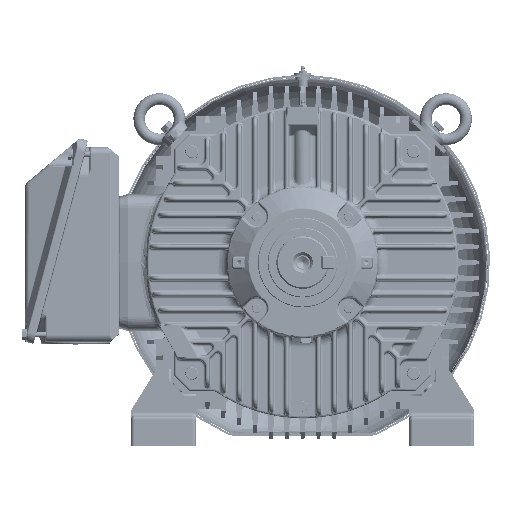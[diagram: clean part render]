
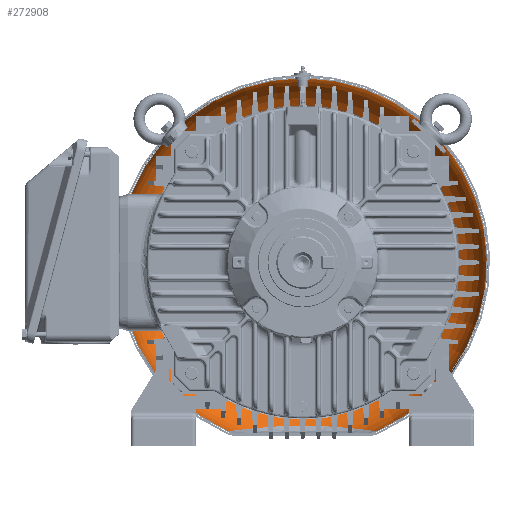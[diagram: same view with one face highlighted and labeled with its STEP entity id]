
A CAD part, front view. The second image highlights one B-rep face of the part: STEP entity #272908.
In plain terms, the highlighted toroidal (fillet/blend) face has major radius 180.5 mm and minor radius 75 mm.
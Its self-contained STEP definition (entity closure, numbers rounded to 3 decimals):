
#5794=B_SPLINE_CURVE_WITH_KNOTS('',3,(#451429,#451430,#451431,#451432,#451433,
#451434,#451435,#451436,#451437,#451438,#451439,#451440,#451441,#451442,
#451443,#451444,#451445,#451446,#451447,#451448,#451449,#451450,#451451,
#451452,#451453,#451454,#451455,#451456,#451457,#451458,#451459,#451460,
#451461,#451462,#451463,#451464,#451465,#451466,#451467,#451468,#451469,
#451470,#451471,#451472,#451473,#451474,#451475,#451476,#451477,#451478,
#451479,#451480,#451481,#451482,#451483,#451484,#451485,#451486,#451487,
#451488,#451489,#451490,#451491,#451492,#451493,#451494,#451495,#451496,
#451497,#451498,#451499,#451500,#451501,#451502,#451503,#451504,#451505,
#451506,#451507,#451508,#451509,#451510,#451511,#451512,#451513),
 .UNSPECIFIED.,.F.,.F.,(4,1,1,1,1,1,1,1,1,1,1,1,1,1,1,1,1,1,1,1,1,1,1,1,
1,1,1,1,1,1,1,1,1,1,1,1,1,1,1,1,1,1,1,1,1,1,1,1,1,1,1,1,1,1,1,1,1,1,1,1,
1,1,1,1,1,1,1,1,1,1,1,1,1,1,1,1,1,1,1,1,1,1,4),(0.,0.031,0.063,0.078,
0.094,0.102,0.109,0.117,0.121,0.123,0.125,0.127,
0.129,0.133,0.141,0.148,0.156,0.172,0.188,0.203,
0.219,0.227,0.234,0.242,0.246,0.25,0.254,0.258,
0.266,0.281,0.297,0.313,0.344,0.359,0.367,0.375,0.383,
0.391,0.406,0.438,0.469,0.5,0.531,0.563,0.594,0.609,0.617,
0.625,0.633,0.641,0.656,0.688,0.703,0.719,0.734,0.742,
0.746,0.75,0.754,0.758,0.766,0.773,0.781,0.797,
0.813,0.828,0.844,0.852,0.859,0.867,0.871,0.873,
0.875,0.877,0.879,0.883,0.891,0.898,0.906,0.922,
0.938,0.969,1.),.UNSPECIFIED.);
#39639=TOROIDAL_SURFACE('',#290404,180.5,75.);
#79943=ORIENTED_EDGE('',*,*,#118615,.T.);
#79944=ORIENTED_EDGE('',*,*,#118617,.T.);
#79945=ORIENTED_EDGE('',*,*,#118612,.F.);
#118612=EDGE_CURVE('',#139867,#139867,#150867,.T.);
#118615=EDGE_CURVE('',#139871,#139870,#150869,.T.);
#118617=EDGE_CURVE('',#139870,#139871,#5794,.T.);
#139867=VERTEX_POINT('',#451418);
#139870=VERTEX_POINT('',#451424);
#139871=VERTEX_POINT('',#451426);
#150867=CIRCLE('',#290400,218.);
#150869=CIRCLE('',#290403,255.5);
#160878=EDGE_LOOP('',(#79943,#79944));
#160879=EDGE_LOOP('',(#79945));
#175130=FACE_BOUND('',#160878,.T.);
#175131=FACE_BOUND('',#160879,.T.);
#272908=ADVANCED_FACE('',(#175130,#175131),#39639,.F.);
#290400=AXIS2_PLACEMENT_3D('',#451417,#331586,#331587);
#290403=AXIS2_PLACEMENT_3D('',#451425,#331593,#331594);
#290404=AXIS2_PLACEMENT_3D('',#451428,#331596,#331597);
#331586=DIRECTION('',(0.,-1.,0.));
#331587=DIRECTION('',(1.,0.,0.));
#331593=DIRECTION('',(0.,-1.,0.));
#331594=DIRECTION('',(0.,0.,-1.));
#331596=DIRECTION('',(0.,-1.,0.));
#331597=DIRECTION('',(1.,0.,0.));
#451417=CARTESIAN_POINT('',(0.,714.29,0.));
#451418=CARTESIAN_POINT('',(218.,714.29,0.));
#451424=CARTESIAN_POINT('',(-102.85,649.338,-233.885));
#451425=CARTESIAN_POINT('',(0.,649.338,0.));
#451426=CARTESIAN_POINT('',(102.85,649.338,-233.885));
#451428=CARTESIAN_POINT('',(0.,649.338,0.));
#451429=CARTESIAN_POINT('',(-102.85,649.338,-233.885));
#451430=CARTESIAN_POINT('',(-102.85,652.013,-233.885));
#451431=CARTESIAN_POINT('',(-102.314,657.295,-233.808));
#451432=CARTESIAN_POINT('',(-100.336,663.66,-233.559));
#451433=CARTESIAN_POINT('',(-97.993,668.573,-233.28));
#451434=CARTESIAN_POINT('',(-96.219,671.563,-233.071));
#451435=CARTESIAN_POINT('',(-94.618,673.903,-232.884));
#451436=CARTESIAN_POINT('',(-93.326,675.632,-232.734));
#451437=CARTESIAN_POINT('',(-92.179,677.047,-232.599));
#451438=CARTESIAN_POINT('',(-91.332,678.032,-232.5));
#451439=CARTESIAN_POINT('',(-90.846,678.581,-232.442));
#451440=CARTESIAN_POINT('',(-90.451,679.018,-232.396));
#451441=CARTESIAN_POINT('',(-90.146,679.35,-232.36));
#451442=CARTESIAN_POINT('',(-89.703,679.825,-232.307));
#451443=CARTESIAN_POINT('',(-88.931,680.633,-232.216));
#451444=CARTESIAN_POINT('',(-87.788,681.772,-232.082));
#451445=CARTESIAN_POINT('',(-86.37,683.1,-231.917));
#451446=CARTESIAN_POINT('',(-84.413,684.823,-231.691));
#451447=CARTESIAN_POINT('',(-81.846,686.889,-231.4));
#451448=CARTESIAN_POINT('',(-78.579,689.227,-231.04));
#451449=CARTESIAN_POINT('',(-75.132,691.429,-230.673));
#451450=CARTESIAN_POINT('',(-72.114,693.151,-230.363));
#451451=CARTESIAN_POINT('',(-69.615,694.463,-230.112));
#451452=CARTESIAN_POINT('',(-67.702,695.415,-229.923));
#451453=CARTESIAN_POINT('',(-66.066,696.184,-229.764));
#451454=CARTESIAN_POINT('',(-64.753,696.777,-229.637));
#451455=CARTESIAN_POINT('',(-63.714,697.233,-229.538));
#451456=CARTESIAN_POINT('',(-62.834,697.609,-229.454));
#451457=CARTESIAN_POINT('',(-61.598,698.125,-229.338));
#451458=CARTESIAN_POINT('',(-59.446,698.988,-229.138));
#451459=CARTESIAN_POINT('',(-56.317,700.15,-228.856));
#451460=CARTESIAN_POINT('',(-52.503,701.421,-228.53));
#451461=CARTESIAN_POINT('',(-47.328,702.966,-228.115));
#451462=CARTESIAN_POINT('',(-42.027,704.291,-227.734));
#451463=CARTESIAN_POINT('',(-37.263,705.278,-227.433));
#451464=CARTESIAN_POINT('',(-34.521,705.792,-227.272));
#451465=CARTESIAN_POINT('',(-32.406,706.161,-227.154));
#451466=CARTESIAN_POINT('',(-30.433,706.481,-227.049));
#451467=CARTESIAN_POINT('',(-27.752,706.886,-226.913));
#451468=CARTESIAN_POINT('',(-23.08,707.51,-226.699));
#451469=CARTESIAN_POINT('',(-16.372,708.184,-226.458));
#451470=CARTESIAN_POINT('',(-8.276,708.661,-226.287));
#451471=CARTESIAN_POINT('',(-0.066,708.82,-226.232));
#451472=CARTESIAN_POINT('',(8.185,708.665,-226.286));
#451473=CARTESIAN_POINT('',(16.299,708.189,-226.457));
#451474=CARTESIAN_POINT('',(23.025,707.516,-226.697));
#451475=CARTESIAN_POINT('',(27.711,706.892,-226.912));
#451476=CARTESIAN_POINT('',(30.398,706.487,-227.047));
#451477=CARTESIAN_POINT('',(32.38,706.166,-227.152));
#451478=CARTESIAN_POINT('',(34.487,705.799,-227.27));
#451479=CARTESIAN_POINT('',(37.225,705.286,-227.431));
#451480=CARTESIAN_POINT('',(41.98,704.302,-227.73));
#451481=CARTESIAN_POINT('',(47.273,702.981,-228.111));
#451482=CARTESIAN_POINT('',(52.443,701.44,-228.526));
#451483=CARTESIAN_POINT('',(56.254,700.171,-228.851));
#451484=CARTESIAN_POINT('',(59.381,699.013,-229.132));
#451485=CARTESIAN_POINT('',(61.532,698.152,-229.332));
#451486=CARTESIAN_POINT('',(62.768,697.637,-229.448));
#451487=CARTESIAN_POINT('',(63.648,697.262,-229.532));
#451488=CARTESIAN_POINT('',(64.686,696.807,-229.631));
#451489=CARTESIAN_POINT('',(65.998,696.216,-229.757));
#451490=CARTESIAN_POINT('',(67.633,695.448,-229.916));
#451491=CARTESIAN_POINT('',(69.546,694.498,-230.105));
#451492=CARTESIAN_POINT('',(72.046,693.187,-230.357));
#451493=CARTESIAN_POINT('',(75.065,691.466,-230.668));
#451494=CARTESIAN_POINT('',(78.518,689.265,-231.036));
#451495=CARTESIAN_POINT('',(81.793,686.924,-231.397));
#451496=CARTESIAN_POINT('',(84.368,684.855,-231.689));
#451497=CARTESIAN_POINT('',(86.334,683.127,-231.915));
#451498=CARTESIAN_POINT('',(87.759,681.796,-232.081));
#451499=CARTESIAN_POINT('',(88.908,680.654,-232.215));
#451500=CARTESIAN_POINT('',(89.684,679.844,-232.306));
#451501=CARTESIAN_POINT('',(90.13,679.367,-232.358));
#451502=CARTESIAN_POINT('',(90.438,679.033,-232.394));
#451503=CARTESIAN_POINT('',(90.832,678.597,-232.44));
#451504=CARTESIAN_POINT('',(91.319,678.049,-232.497));
#451505=CARTESIAN_POINT('',(92.166,677.067,-232.596));
#451506=CARTESIAN_POINT('',(93.315,675.654,-232.73));
#451507=CARTESIAN_POINT('',(94.607,673.927,-232.88));
#451508=CARTESIAN_POINT('',(96.21,671.589,-233.066));
#451509=CARTESIAN_POINT('',(97.986,668.601,-233.275));
#451510=CARTESIAN_POINT('',(100.331,663.687,-233.556));
#451511=CARTESIAN_POINT('',(102.313,657.316,-233.807));
#451512=CARTESIAN_POINT('',(102.85,652.02,-233.885));
#451513=CARTESIAN_POINT('',(102.85,649.338,-233.885));
